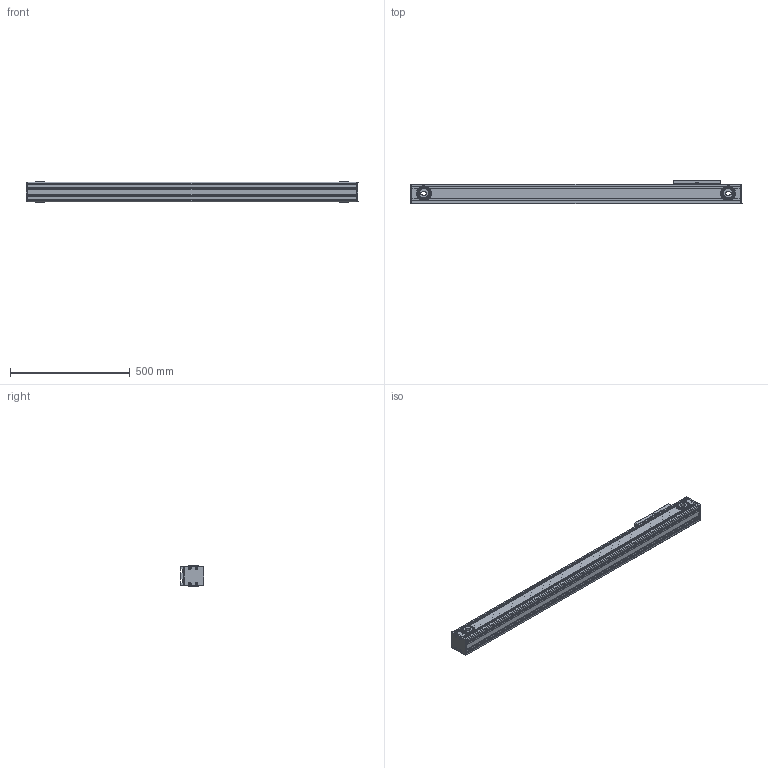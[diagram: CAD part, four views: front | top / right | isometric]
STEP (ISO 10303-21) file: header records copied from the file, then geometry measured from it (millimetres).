
FILE_DESCRIPTION (( 'STEP AP214' ), '1' );
FILE_NAME ('TKR80-1000A1-F0-R3-高速内滚轮直线模组.step', '2025-10-10T03:26:34', ( '' ), ( '' ), 'SwSTEP 2.0', 'SolidWorks 2024', '' );
FILE_SCHEMA (( 'AUTOMOTIVE_DESIGN' ));
Length unit declared in the file: millimetre
Products named in the file (3): TKR80-R3-02; TKR80-1000-R3-01; TKR80-1000A1-F0-R3-高速内滚轮直线模组
Assembly tree (2 placements, depth 2):
  TKR80-1000A1-F0-R3-高速内滚轮直线模组
    TKR80-1000-R3-01
    TKR80-R3-02
Bounding box: 1386 x 100 x 87 mm (x, y, z)
Volume: 4143266.6 mm3; surface area: 1633595.9 mm2
Topology: 1 solids, 52 shells, 2499 faces, 6775 edges, 4338 vertices
Faces by surface type: cylinder 1279, plane 770, torus 244, cone 182, sphere 24
Entity records: 120687 total; most frequent: CARTESIAN_POINT 31465, ORIENTED_EDGE 13382, DIRECTION 13179, EDGE_CURVE 6731, AXIS2_PLACEMENT_3D 5137, VERTEX_POINT 4338, LINE 2905, VECTOR 2905
